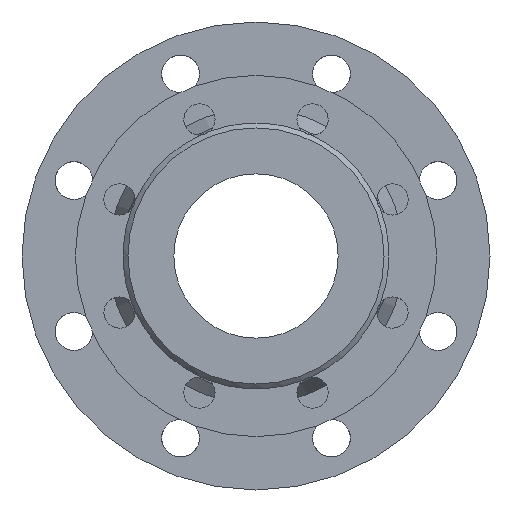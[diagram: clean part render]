
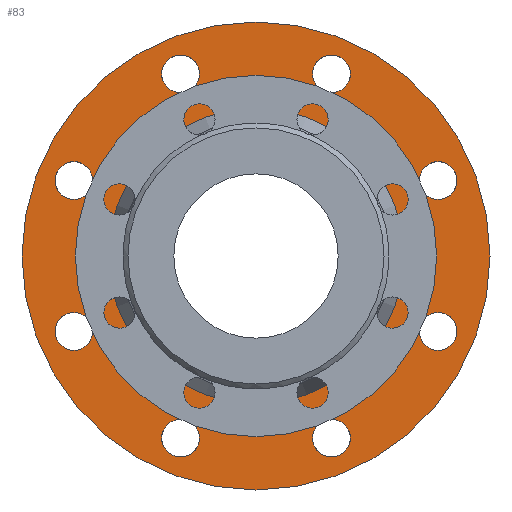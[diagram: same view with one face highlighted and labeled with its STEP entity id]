
A CAD part, left-side view. The second image highlights one B-rep face of the part: STEP entity #83.
In plain terms, the highlighted planar face has unit normal (-1, 0, 0).
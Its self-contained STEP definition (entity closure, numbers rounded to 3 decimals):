
#46 = DIRECTION ( 'NONE',  ( 0., 0., 1. ) ) ;
#48 = FACE_BOUND ( 'NONE', #2140, .T. ) ;
#83 = ADVANCED_FACE ( 'NONE', ( #2247, #432, #1042, #48, #1851, #1657, #2470, #855, #1467, #2262 ), #638, .F. ) ;
#105 = DIRECTION ( 'NONE',  ( 1., 0., 0. ) ) ;
#158 = CARTESIAN_POINT ( 'NONE',  ( 181., -110.866, 45.922 ) ) ;
#213 = ORIENTED_EDGE ( 'NONE', *, *, #292, .T. ) ;
#267 = ORIENTED_EDGE ( 'NONE', *, *, #2602, .T. ) ;
#285 = DIRECTION ( 'NONE',  ( 1., 0., 0. ) ) ;
#290 = ORIENTED_EDGE ( 'NONE', *, *, #1096, .T. ) ;
#292 = EDGE_CURVE ( 'NONE', #1439, #1439, #605, .T. ) ;
#315 = CIRCLE ( 'NONE', #402, 11.5 ) ;
#343 = DIRECTION ( 'NONE',  ( 0., 0., -1. ) ) ;
#373 = CARTESIAN_POINT ( 'NONE',  ( 181., -45.922, 110.866 ) ) ;
#388 = EDGE_LOOP ( 'NONE', ( #267 ) ) ;
#402 = AXIS2_PLACEMENT_3D ( 'NONE', #373, #2184, #343 ) ;
#427 = ORIENTED_EDGE ( 'NONE', *, *, #2340, .T. ) ;
#432 = FACE_BOUND ( 'NONE', #1099, .T. ) ;
#442 = DIRECTION ( 'NONE',  ( 1., 0., 0. ) ) ;
#470 = AXIS2_PLACEMENT_3D ( 'NONE', #2106, #105, #1339 ) ;
#473 = CARTESIAN_POINT ( 'NONE',  ( 181., -45.922, 99.366 ) ) ;
#486 = EDGE_LOOP ( 'NONE', ( #213 ) ) ;
#488 = EDGE_LOOP ( 'NONE', ( #1023 ) ) ;
#507 = ORIENTED_EDGE ( 'NONE', *, *, #1497, .F. ) ;
#517 = EDGE_CURVE ( 'NONE', #2281, #2281, #2396, .T. ) ;
#540 = VERTEX_POINT ( 'NONE', #1352 ) ;
#565 = EDGE_CURVE ( 'NONE', #1646, #1646, #315, .T. ) ;
#572 = DIRECTION ( 'NONE',  ( 1., 0., 0. ) ) ;
#605 = CIRCLE ( 'NONE', #2081, 11.5 ) ;
#608 = AXIS2_PLACEMENT_3D ( 'NONE', #1933, #1495, #698 ) ;
#624 = DIRECTION ( 'NONE',  ( 1., 0., 0. ) ) ;
#638 = PLANE ( 'NONE',  #2394 ) ;
#698 = DIRECTION ( 'NONE',  ( 0., 0., -1. ) ) ;
#750 = CARTESIAN_POINT ( 'NONE',  ( 181., 0., 90. ) ) ;
#784 = CIRCLE ( 'NONE', #608, 11.5 ) ;
#835 = CIRCLE ( 'NONE', #1508, 11.5 ) ;
#841 = VERTEX_POINT ( 'NONE', #2102 ) ;
#855 = FACE_BOUND ( 'NONE', #488, .T. ) ;
#874 = ORIENTED_EDGE ( 'NONE', *, *, #2193, .T. ) ;
#933 = EDGE_LOOP ( 'NONE', ( #290 ) ) ;
#939 = VERTEX_POINT ( 'NONE', #2323 ) ;
#1001 = CARTESIAN_POINT ( 'NONE',  ( 181., 45.922, -110.866 ) ) ;
#1023 = ORIENTED_EDGE ( 'NONE', *, *, #517, .T. ) ;
#1035 = EDGE_LOOP ( 'NONE', ( #427 ) ) ;
#1038 = CARTESIAN_POINT ( 'NONE',  ( 181., 110.866, 34.422 ) ) ;
#1042 = FACE_BOUND ( 'NONE', #1035, .T. ) ;
#1071 = CIRCLE ( 'NONE', #1922, 11.5 ) ;
#1081 = DIRECTION ( 'NONE',  ( 0., 0., -1. ) ) ;
#1083 = EDGE_CURVE ( 'NONE', #2040, #2040, #1071, .T. ) ;
#1086 = VERTEX_POINT ( 'NONE', #750 ) ;
#1096 = EDGE_CURVE ( 'NONE', #841, #841, #784, .T. ) ;
#1099 = EDGE_LOOP ( 'NONE', ( #2493 ) ) ;
#1121 = AXIS2_PLACEMENT_3D ( 'NONE', #2249, #2430, #1454 ) ;
#1174 = DIRECTION ( 'NONE',  ( 0., 0., -1. ) ) ;
#1176 = DIRECTION ( 'NONE',  ( 0., 0., 1. ) ) ;
#1241 = AXIS2_PLACEMENT_3D ( 'NONE', #1449, #1259, #46 ) ;
#1243 = AXIS2_PLACEMENT_3D ( 'NONE', #1001, #624, #1809 ) ;
#1253 = DIRECTION ( 'NONE',  ( 0., 0., -1. ) ) ;
#1259 = DIRECTION ( 'NONE',  ( -1., 0., 0. ) ) ;
#1260 = EDGE_CURVE ( 'NONE', #2552, #2552, #1502, .T. ) ;
#1321 = ORIENTED_EDGE ( 'NONE', *, *, #1260, .T. ) ;
#1339 = DIRECTION ( 'NONE',  ( 0., 0., -1. ) ) ;
#1352 = CARTESIAN_POINT ( 'NONE',  ( 181., 0., 142.5 ) ) ;
#1439 = VERTEX_POINT ( 'NONE', #2089 ) ;
#1449 = CARTESIAN_POINT ( 'NONE',  ( 181., 0., 0. ) ) ;
#1454 = DIRECTION ( 'NONE',  ( 0., 0., -1. ) ) ;
#1467 = FACE_BOUND ( 'NONE', #2282, .T. ) ;
#1495 = DIRECTION ( 'NONE',  ( 1., 0., 0. ) ) ;
#1497 = EDGE_CURVE ( 'NONE', #1086, #1086, #2130, .T. ) ;
#1502 = CIRCLE ( 'NONE', #1121, 11.5 ) ;
#1508 = AXIS2_PLACEMENT_3D ( 'NONE', #2263, #285, #1697 ) ;
#1646 = VERTEX_POINT ( 'NONE', #473 ) ;
#1657 = FACE_BOUND ( 'NONE', #2061, .T. ) ;
#1668 = CARTESIAN_POINT ( 'NONE',  ( 181., 90., 0. ) ) ;
#1697 = DIRECTION ( 'NONE',  ( 0., 0., -1. ) ) ;
#1699 = CARTESIAN_POINT ( 'NONE',  ( 181., 110.866, 45.922 ) ) ;
#1739 = CARTESIAN_POINT ( 'NONE',  ( 181., 110.866, -57.422 ) ) ;
#1748 = CIRCLE ( 'NONE', #470, 11.5 ) ;
#1809 = DIRECTION ( 'NONE',  ( 0., 0., -1. ) ) ;
#1851 = FACE_BOUND ( 'NONE', #486, .T. ) ;
#1922 = AXIS2_PLACEMENT_3D ( 'NONE', #1699, #2110, #1081 ) ;
#1923 = CARTESIAN_POINT ( 'NONE',  ( 181., -110.866, -57.422 ) ) ;
#1925 = AXIS2_PLACEMENT_3D ( 'NONE', #2375, #2158, #1176 ) ;
#1933 = CARTESIAN_POINT ( 'NONE',  ( 181., -45.922, -110.866 ) ) ;
#1948 = VERTEX_POINT ( 'NONE', #1739 ) ;
#2040 = VERTEX_POINT ( 'NONE', #1038 ) ;
#2061 = EDGE_LOOP ( 'NONE', ( #1321 ) ) ;
#2081 = AXIS2_PLACEMENT_3D ( 'NONE', #158, #572, #1174 ) ;
#2089 = CARTESIAN_POINT ( 'NONE',  ( 181., -110.866, 34.422 ) ) ;
#2102 = CARTESIAN_POINT ( 'NONE',  ( 181., -45.922, -122.366 ) ) ;
#2106 = CARTESIAN_POINT ( 'NONE',  ( 181., 45.922, 110.866 ) ) ;
#2110 = DIRECTION ( 'NONE',  ( 1., 0., 0. ) ) ;
#2130 = CIRCLE ( 'NONE', #1925, 90. ) ;
#2140 = EDGE_LOOP ( 'NONE', ( #2256 ) ) ;
#2151 = EDGE_LOOP ( 'NONE', ( #874 ) ) ;
#2158 = DIRECTION ( 'NONE',  ( -1., 0., 0. ) ) ;
#2184 = DIRECTION ( 'NONE',  ( 1., 0., 0. ) ) ;
#2193 = EDGE_CURVE ( 'NONE', #1948, #1948, #835, .T. ) ;
#2247 = FACE_BOUND ( 'NONE', #2151, .T. ) ;
#2249 = CARTESIAN_POINT ( 'NONE',  ( 181., -110.866, -45.922 ) ) ;
#2256 = ORIENTED_EDGE ( 'NONE', *, *, #565, .T. ) ;
#2262 = FACE_OUTER_BOUND ( 'NONE', #388, .T. ) ;
#2263 = CARTESIAN_POINT ( 'NONE',  ( 181., 110.866, -45.922 ) ) ;
#2281 = VERTEX_POINT ( 'NONE', #2503 ) ;
#2282 = EDGE_LOOP ( 'NONE', ( #507 ) ) ;
#2323 = CARTESIAN_POINT ( 'NONE',  ( 181., 45.922, 99.366 ) ) ;
#2340 = EDGE_CURVE ( 'NONE', #939, #939, #1748, .T. ) ;
#2375 = CARTESIAN_POINT ( 'NONE',  ( 181., 0., 0. ) ) ;
#2391 = CIRCLE ( 'NONE', #1241, 142.5 ) ;
#2394 = AXIS2_PLACEMENT_3D ( 'NONE', #1668, #442, #1253 ) ;
#2396 = CIRCLE ( 'NONE', #1243, 11.5 ) ;
#2430 = DIRECTION ( 'NONE',  ( 1., 0., 0. ) ) ;
#2470 = FACE_BOUND ( 'NONE', #933, .T. ) ;
#2493 = ORIENTED_EDGE ( 'NONE', *, *, #1083, .T. ) ;
#2503 = CARTESIAN_POINT ( 'NONE',  ( 181., 45.922, -122.366 ) ) ;
#2552 = VERTEX_POINT ( 'NONE', #1923 ) ;
#2602 = EDGE_CURVE ( 'NONE', #540, #540, #2391, .T. ) ;
